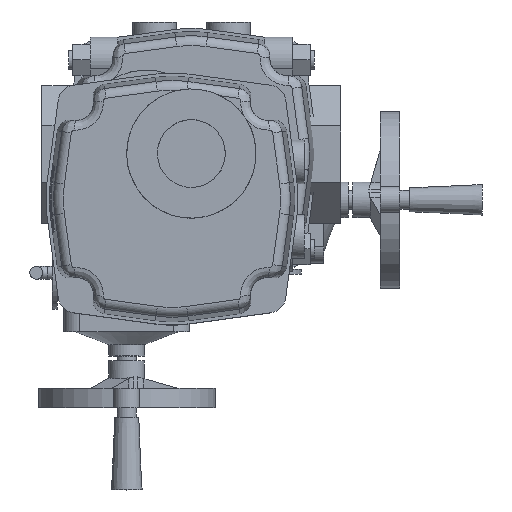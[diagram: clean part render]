
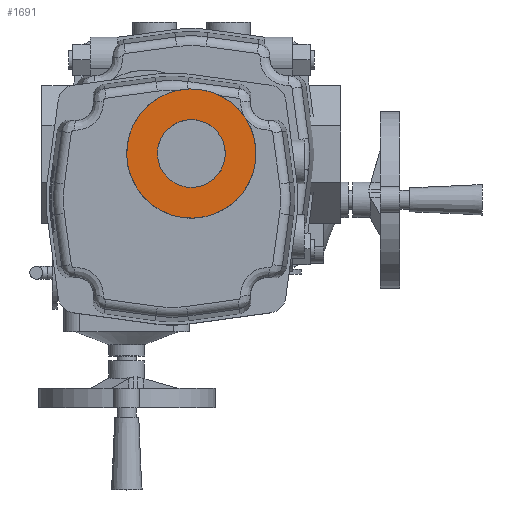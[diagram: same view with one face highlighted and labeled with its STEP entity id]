
A CAD part, top view. The second image highlights one B-rep face of the part: STEP entity #1691.
In plain terms, the highlighted planar face has unit normal (0, 0, 1).
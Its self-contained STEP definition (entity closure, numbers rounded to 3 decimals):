
#1691 = ADVANCED_FACE( '', ( #3550, #3551 ), #3552, .F. );
#3550 = FACE_BOUND( '', #11477, .T. );
#3551 = FACE_OUTER_BOUND( '', #11478, .T. );
#3552 = PLANE( '', #11479 );
#11477 = EDGE_LOOP( '', ( #16554 ) );
#11478 = EDGE_LOOP( '', ( #16555 ) );
#11479 = AXIS2_PLACEMENT_3D( '', #16556, #16557, #16558 );
#16554 = ORIENTED_EDGE( '', *, *, #18243, .T. );
#16555 = ORIENTED_EDGE( '', *, *, #17041, .F. );
#16556 = CARTESIAN_POINT( '', ( -28., 12., 120. ) );
#16557 = DIRECTION( '', ( 0., 0., -1. ) );
#16558 = DIRECTION( '', ( -1., 0., 0. ) );
#17041 = EDGE_CURVE( '', #19138, #19138, #19139, .T. );
#18243 = EDGE_CURVE( '', #21054, #21054, #21055, .T. );
#19138 = VERTEX_POINT( '', #22899 );
#19139 = CIRCLE( '', #22900, 40. );
#21054 = VERTEX_POINT( '', #30978 );
#21055 = CIRCLE( '', #30979, 21. );
#22899 = CARTESIAN_POINT( '', ( -33.409, -27.633, 120. ) );
#22900 = AXIS2_PLACEMENT_3D( '', #33376, #33377, #33378 );
#30978 = CARTESIAN_POINT( '', ( -30.84, -8.807, 120. ) );
#30979 = AXIS2_PLACEMENT_3D( '', #34247, #34248, #34249 );
#33376 = CARTESIAN_POINT( '', ( -28., 12., 120. ) );
#33377 = DIRECTION( '', ( 0., 0., -1. ) );
#33378 = DIRECTION( '', ( -0.135, -0.991, 0. ) );
#34247 = CARTESIAN_POINT( '', ( -28., 12., 120. ) );
#34248 = DIRECTION( '', ( 0., 0., -1. ) );
#34249 = DIRECTION( '', ( -0.135, -0.991, 0. ) );
